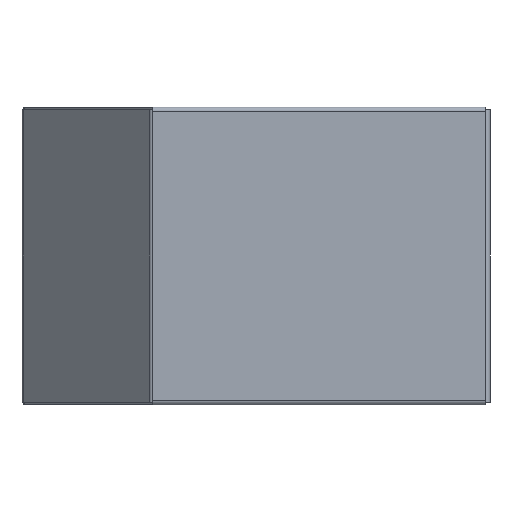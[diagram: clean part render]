
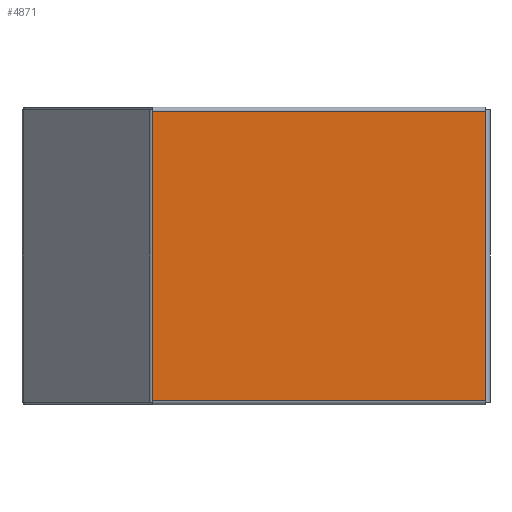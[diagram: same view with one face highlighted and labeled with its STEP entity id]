
A CAD part, left-side view. The second image highlights one B-rep face of the part: STEP entity #4871.
In plain terms, the highlighted planar face has unit normal (-1, 0, 0).
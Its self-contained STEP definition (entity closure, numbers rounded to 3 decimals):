
#167 = AXIS2_PLACEMENT_3D ( 'NONE', #4296, #1473, #4034 ) ;
#194 = EDGE_CURVE ( 'NONE', #2317, #3466, #2458, .T. ) ;
#206 = ORIENTED_EDGE ( 'NONE', *, *, #194, .F. ) ;
#233 = EDGE_CURVE ( 'NONE', #2317, #3146, #2355, .T. ) ;
#235 = EDGE_CURVE ( 'NONE', #3146, #984, #2403, .T. ) ;
#245 = EDGE_CURVE ( 'NONE', #984, #3466, #2329, .T. ) ;
#251 = CARTESIAN_POINT ( 'NONE',  ( -100., -26.736, 85. ) ) ;
#329 = EDGE_LOOP ( 'NONE', ( #1314, #1372, #2750, #206 ) ) ;
#356 = CARTESIAN_POINT ( 'NONE',  ( -100., -222.5, 85. ) ) ;
#645 = CARTESIAN_POINT ( 'NONE',  ( -100., -26.736, -85. ) ) ;
#695 = CARTESIAN_POINT ( 'NONE',  ( -100., -222.5, -85. ) ) ;
#984 = VERTEX_POINT ( 'NONE', #645 ) ;
#1314 = ORIENTED_EDGE ( 'NONE', *, *, #233, .T. ) ;
#1372 = ORIENTED_EDGE ( 'NONE', *, *, #235, .T. ) ;
#1449 = PLANE ( 'NONE',  #167 ) ;
#1473 = DIRECTION ( 'NONE',  ( 1., 0., 0. ) ) ;
#2282 = FACE_OUTER_BOUND ( 'NONE', #329, .T. ) ;
#2317 = VERTEX_POINT ( 'NONE', #356 ) ;
#2328 = VECTOR ( 'NONE', #2428, 1000. ) ;
#2329 = LINE ( 'NONE', #2474, #2328 ) ;
#2346 = VECTOR ( 'NONE', #2466, 1000. ) ;
#2355 = LINE ( 'NONE', #2496, #2346 ) ;
#2369 = VECTOR ( 'NONE', #2453, 1000. ) ;
#2403 = LINE ( 'NONE', #2482, #2369 ) ;
#2428 = DIRECTION ( 'NONE',  ( 0., -1., 0. ) ) ;
#2434 = VECTOR ( 'NONE', #2697, 1000. ) ;
#2453 = DIRECTION ( 'NONE',  ( 0., 0., -1. ) ) ;
#2458 = LINE ( 'NONE', #2646, #2434 ) ;
#2466 = DIRECTION ( 'NONE',  ( 0., 1., 0. ) ) ;
#2474 = CARTESIAN_POINT ( 'NONE',  ( -100., -26.736, -85. ) ) ;
#2482 = CARTESIAN_POINT ( 'NONE',  ( -100., -26.736, 86. ) ) ;
#2496 = CARTESIAN_POINT ( 'NONE',  ( -100., -222.5, 85. ) ) ;
#2646 = CARTESIAN_POINT ( 'NONE',  ( -100., -222.5, 86. ) ) ;
#2697 = DIRECTION ( 'NONE',  ( 0., 0., -1. ) ) ;
#2750 = ORIENTED_EDGE ( 'NONE', *, *, #245, .T. ) ;
#3146 = VERTEX_POINT ( 'NONE', #251 ) ;
#3466 = VERTEX_POINT ( 'NONE', #695 ) ;
#4034 = DIRECTION ( 'NONE',  ( 0., 1., 0. ) ) ;
#4296 = CARTESIAN_POINT ( 'NONE',  ( -100., -25.7, 86. ) ) ;
#4871 = ADVANCED_FACE ( 'NONE', ( #2282 ), #1449, .F. ) ;
